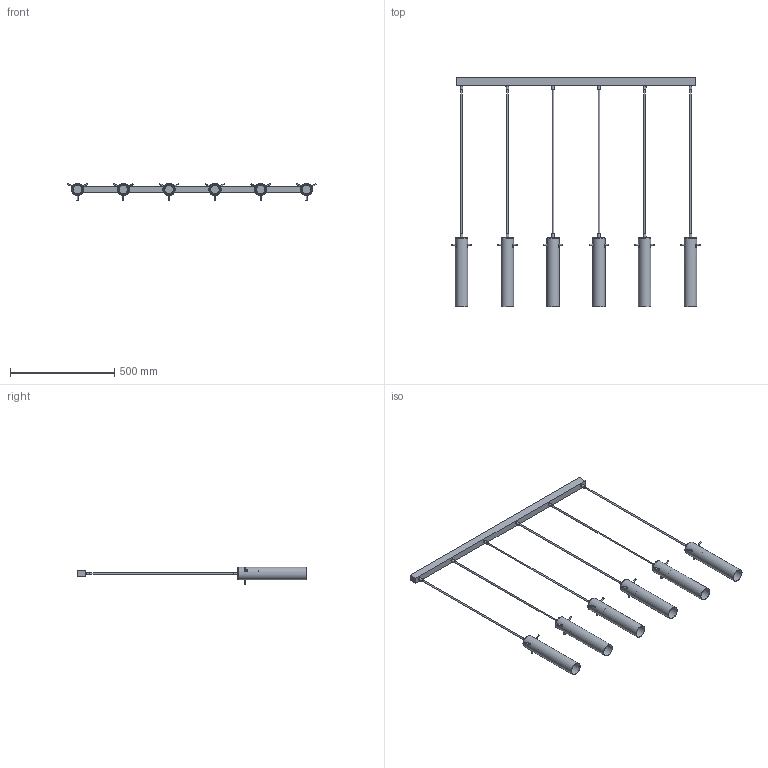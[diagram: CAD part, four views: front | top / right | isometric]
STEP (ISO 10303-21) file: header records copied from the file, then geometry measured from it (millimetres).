
FILE_DESCRIPTION(/* description */ (''),/* implementation_level */ '2;1');
FILE_NAME(/* name */ 'C:/Users/kubaw/OneDrive/Pulpit/Nowy folder/LOOK GRAPHITE v5/LOOK GRAPHITE v5.step',/* time_stamp */ '2021-03-13T10:19:32+01:00',/* author */ (''),/* organization */ (''),/* preprocessor_version */ 'ST-DEVELOPER v18.1',/* originating_system */ 'Autodesk Translation Framework v9.10.0.1330',/* authorisation */ '');
FILE_SCHEMA (('AUTOMOTIVE_DESIGN { 1 0 10303 214 3 1 1 }'));
Length unit declared in the file: millimetre
Products named in the file (10): LOOK GRAPHITE; Component1; Listwa mocująca; Klosz z przewodem; Klosz z przewodem_1; Klosz z przewodem_2; Klosz z przewodem_3; Klosz z przewodem_4; Klosz z przewodem_5; Halogen (LOOK GRAPHITE)
Assembly tree (14 placements, depth 3):
  LOOK GRAPHITE
    Component1
      Listwa mocująca
    Klosz z przewodem
      Halogen (LOOK GRAPHITE)
    Klosz z przewodem_1
      Halogen (LOOK GRAPHITE)
    Klosz z przewodem_2
      Halogen (LOOK GRAPHITE)
    Klosz z przewodem_3
      Halogen (LOOK GRAPHITE)
    Klosz z przewodem_4
      Halogen (LOOK GRAPHITE)
    Klosz z przewodem_5
      Halogen (LOOK GRAPHITE)
Bounding box: 1194.78 x 1101 x 83.24 mm (x, y, z)
Volume: 2925072.7 mm3; surface area: 1229229.8 mm2
Topology: 55 solids, 55 shells, 546 faces, 1212 edges, 794 vertices
Faces by surface type: cone 240, plane 192, cylinder 96, torus 18
Full cylindrical faces by diameter (mm): 6 x18, 7 x6, 13.5 x6, 45 x6, 46 x6, 50 x6, 58 x6, 60 x6
Entity records: 10154 total; most frequent: CARTESIAN_POINT 2839, DIRECTION 1509, ORIENTED_EDGE 1324, EDGE_CURVE 662, AXIS2_PLACEMENT_3D 619, VERTEX_POINT 449, EDGE_LOOP 397, FACE_OUTER_BOUND 331
